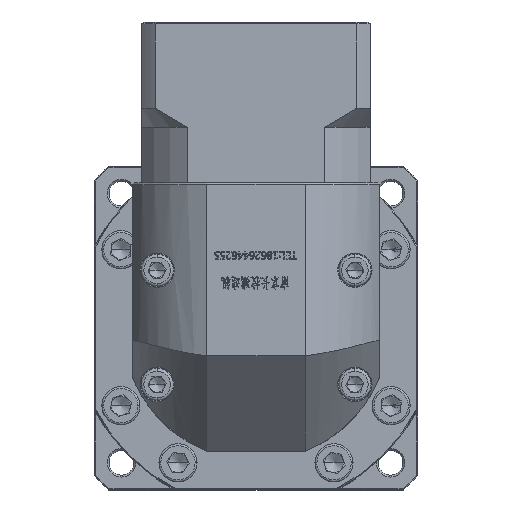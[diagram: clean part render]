
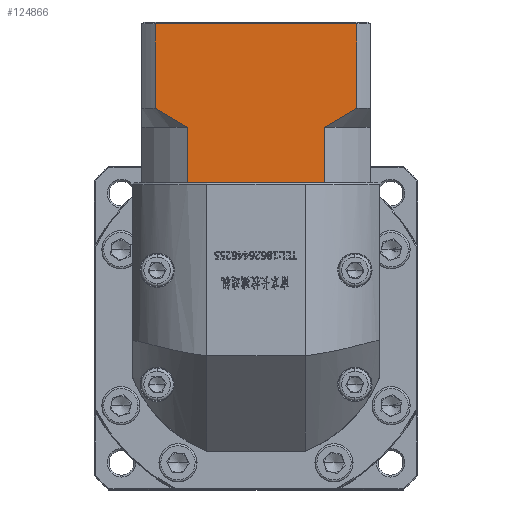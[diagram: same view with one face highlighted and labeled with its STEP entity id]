
A CAD part, top view. The second image highlights one B-rep face of the part: STEP entity #124866.
In plain terms, the highlighted planar face has unit normal (0, 0, 1).
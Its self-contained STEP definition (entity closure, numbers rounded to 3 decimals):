
#605 = DIRECTION ( 'NONE',  ( 0., 1., 0. ) ) ;
#1647 = CARTESIAN_POINT ( 'NONE',  ( -5.753, 147.218, 71.211 ) ) ;
#3036 = CARTESIAN_POINT ( 'NONE',  ( 41.616, 150.666, 71.211 ) ) ;
#3731 = CARTESIAN_POINT ( 'NONE',  ( -11.299, 145.666, 71.211 ) ) ;
#6280 = FACE_OUTER_BOUND ( 'NONE', #62799, .T. ) ;
#8155 = EDGE_CURVE ( 'NONE', #155905, #62876, #76308, .T. ) ;
#8898 = EDGE_CURVE ( 'NONE', #13670, #13990, #147202, .T. ) ;
#11510 = VERTEX_POINT ( 'NONE', #170329 ) ;
#11935 = VERTEX_POINT ( 'NONE', #40205 ) ;
#12460 = ORIENTED_EDGE ( 'NONE', *, *, #152412, .F. ) ;
#13670 = VERTEX_POINT ( 'NONE', #120500 ) ;
#13990 = VERTEX_POINT ( 'NONE', #59604 ) ;
#14251 = DIRECTION ( 'NONE',  ( 0., 0., -1. ) ) ;
#14488 = LINE ( 'NONE', #156015, #85817 ) ;
#15169 = CARTESIAN_POINT ( 'NONE',  ( -2.87, 145.666, 71.211 ) ) ;
#17328 = EDGE_CURVE ( 'NONE', #62876, #171056, #68192, .T. ) ;
#19365 = CARTESIAN_POINT ( 'NONE',  ( -2.87, 145.666, 71.211 ) ) ;
#22500 = VERTEX_POINT ( 'NONE', #61323 ) ;
#24284 = CARTESIAN_POINT ( 'NONE',  ( -2.87, 131.166, 71.211 ) ) ;
#32123 = CARTESIAN_POINT ( 'NONE',  ( -1.879, 131.166, 71.211 ) ) ;
#32465 = VERTEX_POINT ( 'NONE', #19365 ) ;
#35712 = ORIENTED_EDGE ( 'NONE', *, *, #152602, .T. ) ;
#36958 = LINE ( 'NONE', #3731, #139611 ) ;
#40205 = CARTESIAN_POINT ( 'NONE',  ( -11.299, 150.666, 71.211 ) ) ;
#40349 = VECTOR ( 'NONE', #148516, 1000. ) ;
#40656 = PLANE ( 'NONE',  #142127 ) ;
#42329 = CARTESIAN_POINT ( 'NONE',  ( -14.842, 131.166, 71.211 ) ) ;
#42383 = CARTESIAN_POINT ( 'NONE',  ( 34.642, 146.416, 71.211 ) ) ;
#44412 = CARTESIAN_POINT ( 'NONE',  ( 41.616, 145.666, 71.211 ) ) ;
#53867 = CARTESIAN_POINT ( 'NONE',  ( -11.299, 150.666, 71.211 ) ) ;
#55800 = DIRECTION ( 'NONE',  ( 1., 0., 0. ) ) ;
#59604 = CARTESIAN_POINT ( 'NONE',  ( -11.299, 172.866, 71.211 ) ) ;
#61323 = CARTESIAN_POINT ( 'NONE',  ( 41.616, 150.666, 71.211 ) ) ;
#62799 = EDGE_LOOP ( 'NONE', ( #113338, #92369, #88175, #35712, #134156, #113179, #144610, #123585, #12460, #110988 ) ) ;
#62876 = VERTEX_POINT ( 'NONE', #32123 ) ;
#63782 = LINE ( 'NONE', #44412, #95170 ) ;
#68192 = LINE ( 'NONE', #42329, #143627 ) ;
#69880 = CARTESIAN_POINT ( 'NONE',  ( 36.068, 147.217, 71.211 ) ) ;
#72452 = EDGE_CURVE ( 'NONE', #11510, #22500, #164360, .T. ) ;
#74619 = DIRECTION ( 'NONE',  ( 1., 0., 0. ) ) ;
#76270 = DIRECTION ( 'NONE',  ( 1., 0., 0. ) ) ;
#76308 = LINE ( 'NONE', #156487, #107675 ) ;
#81980 = CARTESIAN_POINT ( 'NONE',  ( -8.561, 148.893, 71.211 ) ) ;
#82551 = EDGE_CURVE ( 'NONE', #11935, #13990, #36958, .T. ) ;
#83349 = CARTESIAN_POINT ( 'NONE',  ( 40.253, 149.765, 71.211 ) ) ;
#85817 = VECTOR ( 'NONE', #74619, 1000. ) ;
#87491 = VECTOR ( 'NONE', #130658, 1000. ) ;
#88002 = VERTEX_POINT ( 'NONE', #157833 ) ;
#88175 = ORIENTED_EDGE ( 'NONE', *, *, #82551, .F. ) ;
#92369 = ORIENTED_EDGE ( 'NONE', *, *, #8898, .T. ) ;
#93814 = EDGE_CURVE ( 'NONE', #13670, #22500, #63782, .T. ) ;
#94568 = CARTESIAN_POINT ( 'NONE',  ( -14.842, 173.366, 71.211 ) ) ;
#94718 = CARTESIAN_POINT ( 'NONE',  ( -14.842, 172.866, 71.211 ) ) ;
#94902 = CARTESIAN_POINT ( 'NONE',  ( -9.939, 149.767, 71.211 ) ) ;
#95170 = VECTOR ( 'NONE', #138057, 1000. ) ;
#95482 = CARTESIAN_POINT ( 'NONE',  ( -4.322, 146.414, 71.211 ) ) ;
#97259 = EDGE_CURVE ( 'NONE', #155905, #32465, #134683, .T. ) ;
#97566 = DIRECTION ( 'NONE',  ( 0., 1., 0. ) ) ;
#99037 = CARTESIAN_POINT ( 'NONE',  ( 32.195, 131.166, 71.211 ) ) ;
#107675 = VECTOR ( 'NONE', #76270, 1000. ) ;
#108132 = B_SPLINE_CURVE_WITH_KNOTS ( 'NONE', 3,
 ( #53867, #94902, #81980, #1647, #95482, #15169 ),
 .UNSPECIFIED., .F., .F.,
 ( 4, 2, 4 ),
 ( 0.052, 0.057, 0.062 ),
 .UNSPECIFIED. ) ;
#110988 = ORIENTED_EDGE ( 'NONE', *, *, #72452, .T. ) ;
#113179 = ORIENTED_EDGE ( 'NONE', *, *, #8155, .T. ) ;
#113338 = ORIENTED_EDGE ( 'NONE', *, *, #93814, .F. ) ;
#117221 = CARTESIAN_POINT ( 'NONE',  ( 33.186, 145.666, 71.211 ) ) ;
#120500 = CARTESIAN_POINT ( 'NONE',  ( 41.616, 172.866, 71.211 ) ) ;
#123094 = LINE ( 'NONE', #117221, #87491 ) ;
#123585 = ORIENTED_EDGE ( 'NONE', *, *, #173609, .T. ) ;
#124866 = ADVANCED_FACE ( 'NONE', ( #6280 ), #40656, .F. ) ;
#126615 = DIRECTION ( 'NONE',  ( 0., 1., 0. ) ) ;
#130658 = DIRECTION ( 'NONE',  ( 0., -1., 0. ) ) ;
#134156 = ORIENTED_EDGE ( 'NONE', *, *, #97259, .F. ) ;
#134683 = LINE ( 'NONE', #147097, #170313 ) ;
#136613 = CARTESIAN_POINT ( 'NONE',  ( 33.186, 145.666, 71.211 ) ) ;
#138057 = DIRECTION ( 'NONE',  ( 0., -1., 0. ) ) ;
#139611 = VECTOR ( 'NONE', #97566, 1000. ) ;
#142127 = AXIS2_PLACEMENT_3D ( 'NONE', #94568, #14251, #126615 ) ;
#143627 = VECTOR ( 'NONE', #55800, 1000. ) ;
#144610 = ORIENTED_EDGE ( 'NONE', *, *, #17328, .T. ) ;
#147097 = CARTESIAN_POINT ( 'NONE',  ( -2.87, 145.666, 71.211 ) ) ;
#147202 = LINE ( 'NONE', #94718, #40349 ) ;
#148516 = DIRECTION ( 'NONE',  ( -1., 0., 0. ) ) ;
#152412 = EDGE_CURVE ( 'NONE', #11510, #88002, #123094, .T. ) ;
#152602 = EDGE_CURVE ( 'NONE', #11935, #32465, #108132, .T. ) ;
#155905 = VERTEX_POINT ( 'NONE', #24284 ) ;
#156015 = CARTESIAN_POINT ( 'NONE',  ( -14.842, 131.166, 71.211 ) ) ;
#156487 = CARTESIAN_POINT ( 'NONE',  ( -14.842, 131.166, 71.211 ) ) ;
#157833 = CARTESIAN_POINT ( 'NONE',  ( 33.186, 131.166, 71.211 ) ) ;
#163553 = CARTESIAN_POINT ( 'NONE',  ( 38.873, 148.891, 71.211 ) ) ;
#164360 = B_SPLINE_CURVE_WITH_KNOTS ( 'NONE', 3,
 ( #136613, #42383, #69880, #163553, #83349, #3036 ),
 .UNSPECIFIED., .F., .F.,
 ( 4, 2, 4 ),
 ( 0.1, 0.104, 0.109 ),
 .UNSPECIFIED. ) ;
#170313 = VECTOR ( 'NONE', #605, 1000. ) ;
#170329 = CARTESIAN_POINT ( 'NONE',  ( 33.186, 145.666, 71.211 ) ) ;
#171056 = VERTEX_POINT ( 'NONE', #99037 ) ;
#173609 = EDGE_CURVE ( 'NONE', #171056, #88002, #14488, .T. ) ;
